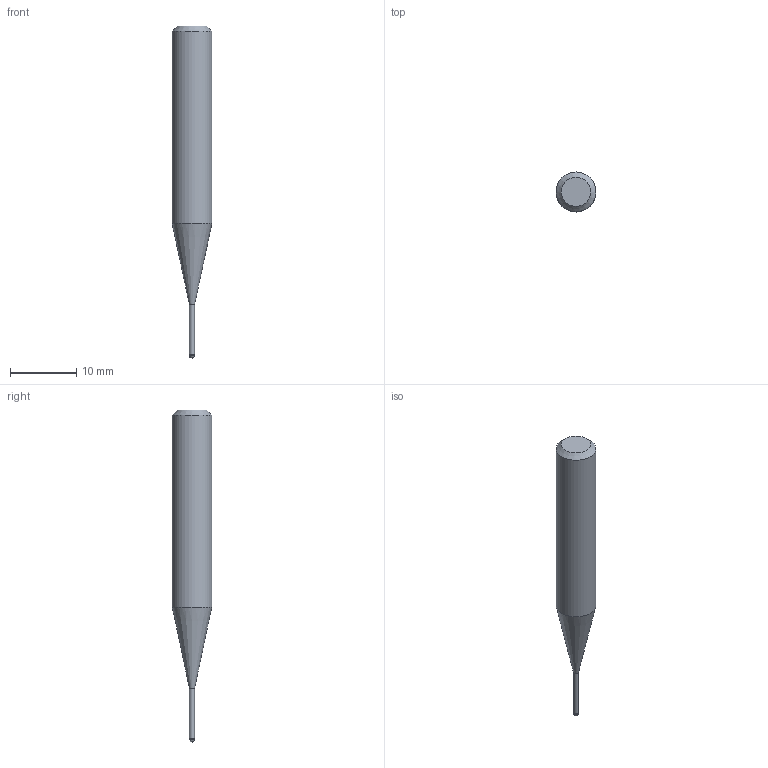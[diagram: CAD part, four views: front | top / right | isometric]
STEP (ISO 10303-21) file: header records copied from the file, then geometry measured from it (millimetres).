
FILE_DESCRIPTION((''),'2;1');
FILE_NAME('C:\Users\nsx150\AppData\Local\Temp\Mastercam 2021\3SYKECWX22\TEMP.step','2021-04-22T10:01:44',(''),(''),'STEP Write','Mastercam 2021 ... CNC Software, Inc.','');
FILE_SCHEMA(('AUTOMOTIVE_DESIGN'));
Length unit declared in the file: millimetre
Products named in the file (1): None
Bounding box: 6 x 6 x 50 mm (x, y, z)
Volume: 969.9 mm3; surface area: 731.9 mm2
Topology: 2 solids, 2 shells, 9 faces, 14 edges, 8 vertices
Faces by surface type: plane 3, cylinder 3, cone 2, sphere 1
Full cylindrical faces by diameter (mm): 0.76 x1, 0.8 x1, 6 x1
Entity records: 211 total; most frequent: DIRECTION 36, CARTESIAN_POINT 25, AXIS2_PLACEMENT_3D 18, ORIENTED_EDGE 14, EDGE_LOOP 14, STYLED_ITEM 12, ADVANCED_FACE 9, FACE_BOUND 8
